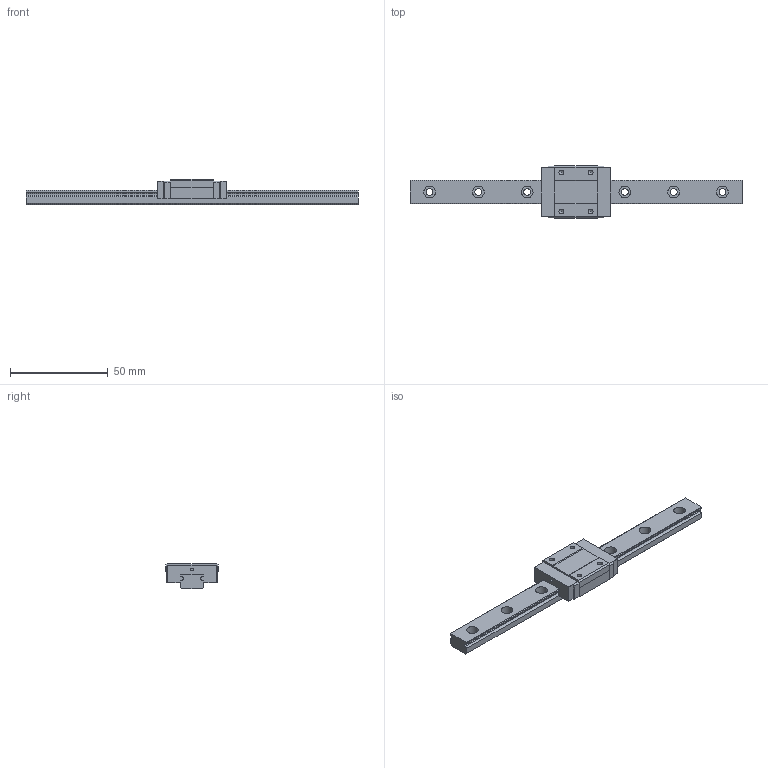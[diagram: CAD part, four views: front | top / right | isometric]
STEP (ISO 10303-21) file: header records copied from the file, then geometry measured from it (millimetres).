
FILE_DESCRIPTION((''),'2;1');
FILE_NAME('C:\Documents and Settings\土屋\My Documents\土屋移動用フォルダ\製品 (図面)\カタログ用3D\リニアガイド\EGM\EGM12.stp','2015-02-21T13:07:23',('y'),(''),'Autodesk Inventor 11','Autodesk Inventor 11','');
FILE_SCHEMA(('AUTOMOTIVE_DESIGN { 1 0 10303 214 1 1 1 1 }'));
Length unit declared in the file: millimetre
Products named in the file (3): EGM12; EGM12レール; EGM12ベアリング
Assembly tree (2 placements, depth 2):
  EGM12
    EGM12レール
    EGM12ベアリング
Bounding box: 170 x 27 x 13 mm (x, y, z)
Volume: 20266.9 mm3; surface area: 11531.7 mm2
Topology: 2 solids, 2 shells, 105 faces, 276 edges, 184 vertices
Faces by surface type: plane 54, bspline 31, cylinder 20
Full cylindrical faces by diameter (mm): 1.3 x1
Entity records: 3459 total; most frequent: CARTESIAN_POINT 945, ORIENTED_EDGE 488, DIRECTION 480, EDGE_CURVE 244, VERTEX_POINT 176, VECTOR 166, LINE 166, AXIS2_PLACEMENT_3D 157
